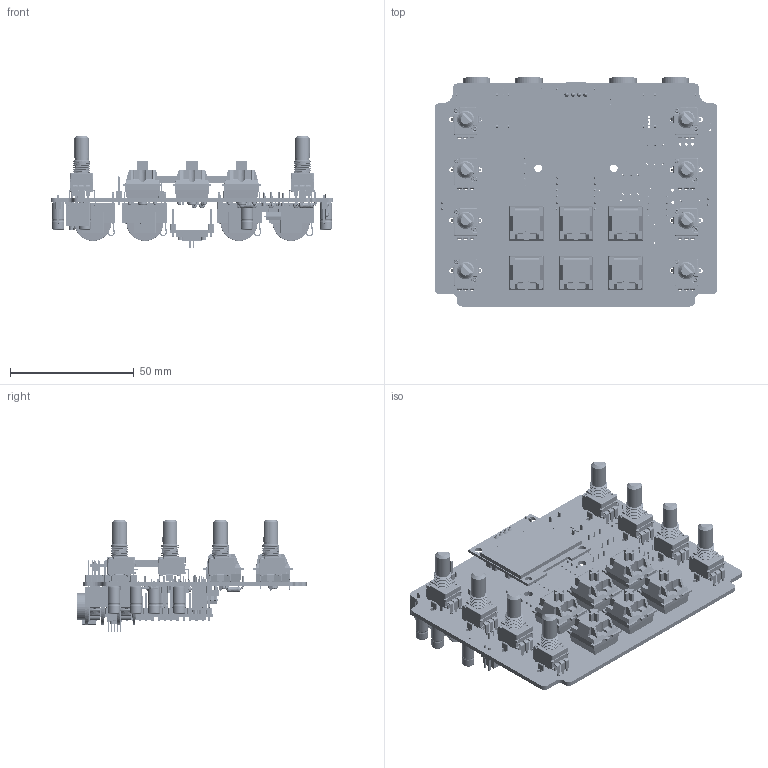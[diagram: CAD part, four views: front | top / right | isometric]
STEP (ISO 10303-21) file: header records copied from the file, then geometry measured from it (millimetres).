
FILE_DESCRIPTION(('Electronic assembly'),'2;1');
FILE_NAME('Board','2023-11-19T16:33:07',('An Author'),('A Company'), 'Open CASCADE STEP processor 6.9','horizon EDA','Unknown');
FILE_SCHEMA(('AUTOMOTIVE_DESIGN { 1 0 10303 214 1 1 1 1 }'));
Length unit declared in the file: millimetre
Products named in the file (367): daisyy-PCA; daisyy-PCB; daisyy-C1; daisyy-C1-1; daisyy-C1-2; daisyy-C1-3; daisyy-C1-4; daisyy-C2; daisyy-C2-1; daisyy-C2-2; daisyy-C2-3; daisyy-C2-4; daisyy-C3; daisyy-C3-1; daisyy-C4; daisyy-C4-1; daisyy-C4-2; daisyy-C4-3; daisyy-C4-4; daisyy-C5; daisyy-C5-1; daisyy-C6; daisyy-C6-1; daisyy-C6-2; daisyy-C6-3; daisyy-C6-4; daisyy-C7; daisyy-C7-1; daisyy-C7-2; daisyy-C7-3; daisyy-C7-4; daisyy-C8; daisyy-C8-1; daisyy-C8-2; daisyy-C8-3; daisyy-C8-4; daisyy-DS1; daisyy-DS1-1; daisyy-EXT_KNOB9; daisyy-EXT_KNOB9-1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
Assembly tree (366 placements, depth 3):
  daisyy-PCA
    daisyy-PCB
    daisyy-C1
      daisyy-C1-1
      daisyy-C1-2
      daisyy-C1-3
      daisyy-C1-4
    daisyy-C2
      daisyy-C2-1
      daisyy-C2-2
      daisyy-C2-3
      daisyy-C2-4
    daisyy-C3
      daisyy-C3-1
    daisyy-C4
      daisyy-C4-1
      daisyy-C4-2
      daisyy-C4-3
      daisyy-C4-4
    daisyy-C5
      daisyy-C5-1
    daisyy-C6
      daisyy-C6-1
      daisyy-C6-2
      daisyy-C6-3
      daisyy-C6-4
    daisyy-C7
      daisyy-C7-1
      daisyy-C7-2
      daisyy-C7-3
      daisyy-C7-4
    daisyy-C8
      daisyy-C8-1
      daisyy-C8-2
      daisyy-C8-3
      daisyy-C8-4
    daisyy-DS1
      daisyy-DS1-1
    daisyy-EXT_KNOB9
      daisyy-EXT_KNOB9-1
    daisyy-EXT_KNOB10
      daisyy-EXT_KNOB10-1
    daisyy-GAIN_
      daisyy-GAIN_-1
      daisyy-GAIN_-2
      daisyy-GAIN_-3
      daisyy-GAIN_-4
      daisyy-GAIN_-5
      daisyy-GAIN_-6
      daisyy-GAIN_-7
    daisyy-I2C
      daisyy-I2C-1
    daisyy-INPUT_L
      daisyy-INPUT_L-1
    daisyy-INPUT_R
      daisyy-INPUT_R-1
    daisyy-J_D0-7
      daisyy-J_D0-7-1
    daisyy-J_D26
      daisyy-J_D26-1
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Bounding box: 114 x 92.38 x 45.43 mm (x, y, z)
Volume: 54021.3 mm3; surface area: 77912.6 mm2
Topology: 362 solids, 410 shells, 10422 faces, 28390 edges, 21742 vertices
Faces by surface type: plane 4528, bspline 4261, cylinder 1317, cone 206, torus 66, sphere 44
Full cylindrical faces by diameter (mm): 0.2 x31, 0.508 x16, 0.6 x1, 0.7 x3, 0.75 x18, 0.8 x31, 0.85 x41, 0.95 x3, 0.955 x1, 1 x30, 1.1 x27, 1.2 x2, 1.4 x16, 1.5 x28, 1.524 x8, 1.6 x12, 1.7 x12, 1.724 x8, 2 x16, 3.5 x2, 3.85 x6, 4 x12, 6.5 x8, 8.473 x12, 9.525 x12, 11 x4
Entity records: 956390 total; most frequent: CARTESIAN_POINT 451774, DIRECTION 73248, ORIENTED_EDGE 49475, PCURVE 49475, DEFINITIONAL_REPRESENTATION 49475, LINE 49404, VECTOR 49404, EDGE_CURVE 24840
